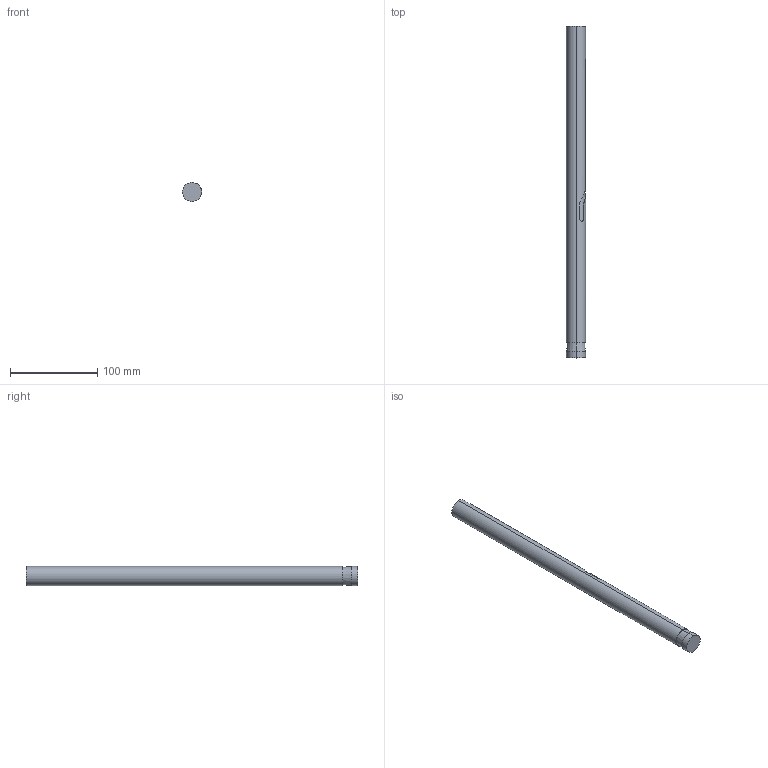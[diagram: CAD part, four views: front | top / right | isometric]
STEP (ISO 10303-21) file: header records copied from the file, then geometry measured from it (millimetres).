
FILE_DESCRIPTION (( 'STEP AP214' ), '1' );
FILE_NAME ('65.STEP', '2024-09-18T09:08:50', ( '' ), ( '' ), 'SwSTEP 2.0', 'SolidWorks 2021', '' );
FILE_SCHEMA (( 'AUTOMOTIVE_DESIGN' ));
Length unit declared in the file: millimetre
Products named in the file (1): 65
Bounding box: 22 x 381.5 x 22 mm (x, y, z)
Volume: 141303.3 mm3; surface area: 28402.5 mm2
Topology: 1 solids, 1 shells, 24 faces, 56 edges, 35 vertices
Faces by surface type: bspline 10, cylinder 7, cone 4, plane 3
Entity records: 3915 total; most frequent: CARTESIAN_POINT 3395, ORIENTED_EDGE 108, DIRECTION 68, EDGE_CURVE 54, VERTEX_POINT 35, B_SPLINE_CURVE_WITH_KNOTS 30, AXIS2_PLACEMENT_3D 29, EDGE_LOOP 27
